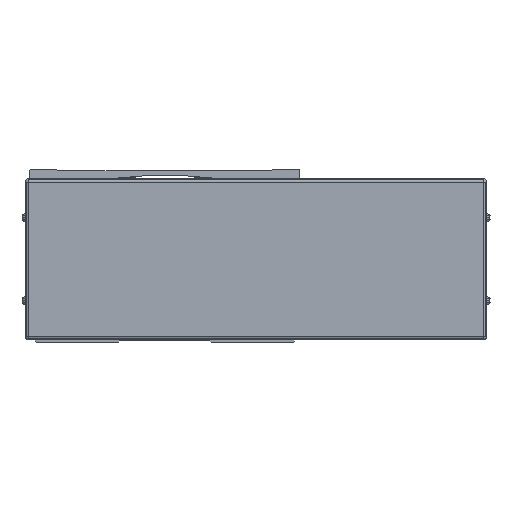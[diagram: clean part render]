
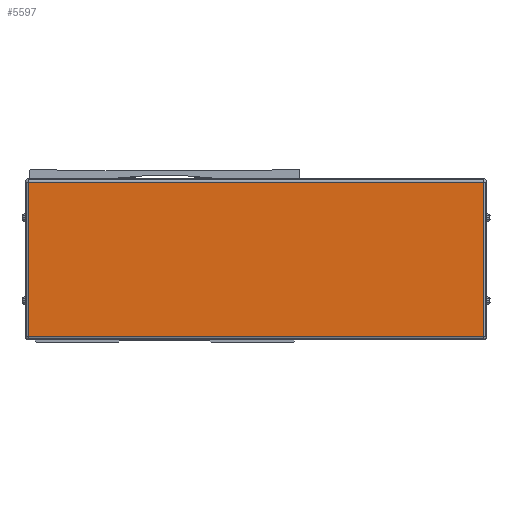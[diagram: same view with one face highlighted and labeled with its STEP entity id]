
A CAD part, front view. The second image highlights one B-rep face of the part: STEP entity #5597.
In plain terms, the highlighted planar face has unit normal (0, -1, 0).
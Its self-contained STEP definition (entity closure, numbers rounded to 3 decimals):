
#5597=ADVANCED_FACE('',(#11847),#11848,.T.);
#11847=FACE_OUTER_BOUND('',#20066,.T.);
#11848=PLANE('',#20067);
#20066=EDGE_LOOP('',(#37720,#37721,#37722,#37723));
#20067=AXIS2_PLACEMENT_3D('',#37724,#37725,#37726);
#37720=ORIENTED_EDGE('',*,*,#48077,.F.);
#37721=ORIENTED_EDGE('',*,*,#44097,.F.);
#37722=ORIENTED_EDGE('',*,*,#50479,.F.);
#37723=ORIENTED_EDGE('',*,*,#49679,.F.);
#37724=CARTESIAN_POINT('',(-545.,-472.778,-2.));
#37725=DIRECTION('',(0.,-1.0,0.));
#37726=DIRECTION('',(1.0,0.,0.));
#44097=EDGE_CURVE('',#52541,#52543,#52544,.T.);
#48077=EDGE_CURVE('',#52543,#59046,#59047,.T.);
#49679=EDGE_CURVE('',#59046,#58197,#61216,.T.);
#50479=EDGE_CURVE('',#58197,#52541,#62219,.T.);
#52541=VERTEX_POINT('',#64817);
#52543=VERTEX_POINT('',#64819);
#52544=LINE('',#64820,#64821);
#58197=VERTEX_POINT('',#73340);
#59046=VERTEX_POINT('',#74668);
#59047=LINE('',#74669,#74670);
#61216=LINE('',#78041,#78042);
#62219=LINE('',#79579,#79580);
#64817=CARTESIAN_POINT('',(-682.1,-472.778,-48.5));
#64819=CARTESIAN_POINT('',(-682.1,-472.778,44.5));
#64820=CARTESIAN_POINT('',(-682.1,-472.778,-2.));
#64821=VECTOR('',#82200,10.0);
#73340=CARTESIAN_POINT('',(-407.9,-472.778,-48.5));
#74668=CARTESIAN_POINT('',(-407.9,-472.778,44.5));
#74669=CARTESIAN_POINT('',(-545.,-472.778,44.5));
#74670=VECTOR('',#87254,10.0);
#78041=CARTESIAN_POINT('',(-407.9,-472.778,-2.));
#78042=VECTOR('',#89088,10.0);
#79579=CARTESIAN_POINT('',(-545.,-472.778,-48.5));
#79580=VECTOR('',#89956,10.0);
#82200=DIRECTION('',(0.,0.,1.0));
#87254=DIRECTION('',(1.0,0.,0.));
#89088=DIRECTION('',(0.,0.,-1.0));
#89956=DIRECTION('',(-1.0,0.,0.));
